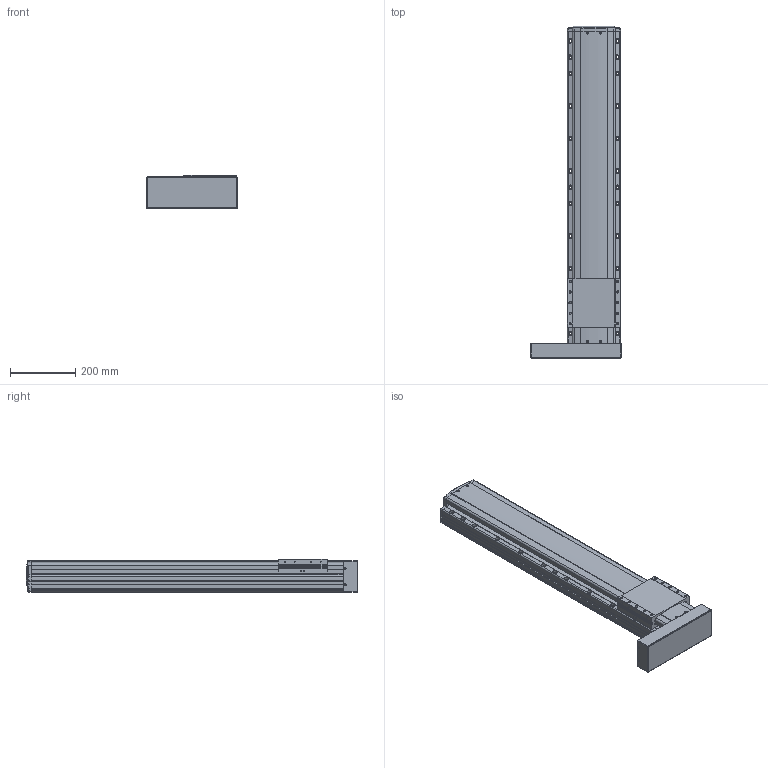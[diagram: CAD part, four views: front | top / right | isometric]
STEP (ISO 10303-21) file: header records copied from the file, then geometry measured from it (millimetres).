
FILE_DESCRIPTION(('STEP AP214'),'1');
FILE_NAME('Z:/Web/3D/PSA165/STP/PSA165-700 (3D)/PSA165ㅁㅁ-700PL.stp','2014-06-23T11:36:06',(' '),(' '),'Spatial InterOp 3D',' ',' ');
FILE_SCHEMA(('automotive_design'));
Length unit declared in the file: millimetre
Products named in the file (23): 스크루 : Round - M4.0 x 12.0; RRCV-PA160; BASE; 스크루 : Round - M4.0 x 10.0; RN15; Screw 20; SLIDE; FRCV; MTPL; 스크루 : Round - M3.0 x 6.0
Bounding box: 281.93 x 1020.8 x 104 mm (x, y, z)
Volume: 14673284.6 mm3; surface area: 947519.8 mm2
Topology: 23 solids, 23 shells, 2039 faces, 5505 edges, 3505 vertices
Faces by surface type: plane 1092, cylinder 669, cone 193, sphere 44, bspline 25, torus 16
Entity records: 83307 total; most frequent: CARTESIAN_POINT 15078, DIRECTION 10851, ORIENTED_EDGE 10718, EDGE_CURVE 5359, AXIS2_PLACEMENT_3D 3652, LINE 3547, VECTOR 3547, VERTEX_POINT 3505
